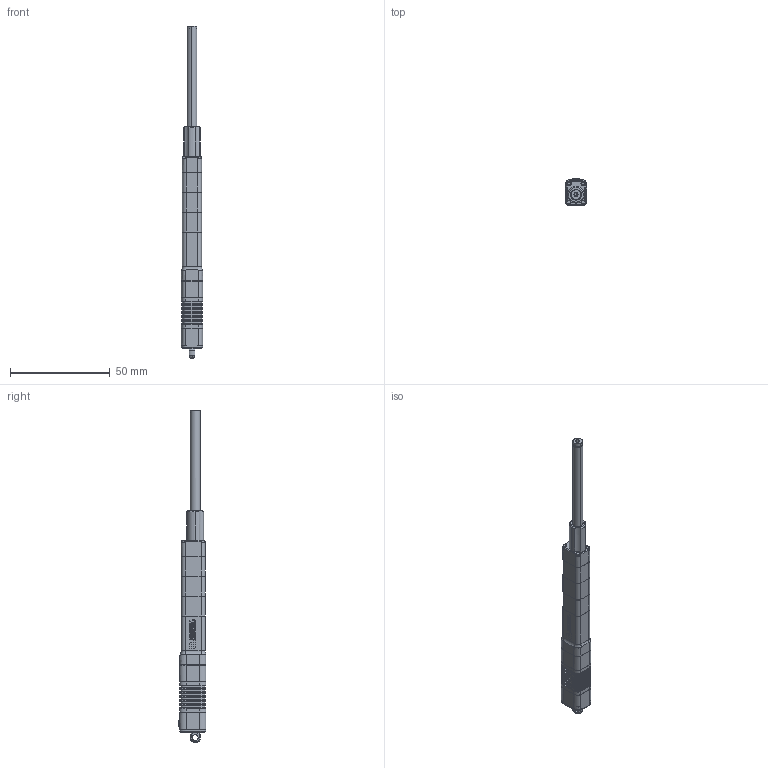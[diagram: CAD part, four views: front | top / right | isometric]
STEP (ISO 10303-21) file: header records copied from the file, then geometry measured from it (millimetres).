
FILE_DESCRIPTION (( 'STEP AP214' ), '1' );
FILE_NAME ('LA50-0x3D-俋楷.STEP', '2022-12-27T02:45:08', ( '' ), ( '' ), '', '', '' );
FILE_SCHEMA (( 'AUTOMOTIVE_DESIGN' ));
Length unit declared in the file: millimetre
Products named in the file (4): A820150-015芢裝-俋楷; ACBO-S30; 驱动器L50-3D外发; LA50-0x3D-俋楷
Assembly tree (3 placements, depth 2):
  LA50-0x3D-俋楷
    A820150-015芢裝-俋楷
    驱动器L50-3D外发
    ACBO-S30
Bounding box: 10.8 x 14 x 166.7 mm (x, y, z)
Volume: 12248.5 mm3; surface area: 7626.7 mm2
Topology: 3 solids, 9 shells, 1768 faces, 4534 edges, 2905 vertices
Faces by surface type: plane 961, bspline 568, cylinder 164, cone 61, torus 14
Entity records: 67240 total; most frequent: CARTESIAN_POINT 28077, ORIENTED_EDGE 9064, DIRECTION 6162, EDGE_CURVE 4532, VERTEX_POINT 2905, LINE 2902, VECTOR 2902, EDGE_LOOP 1899
